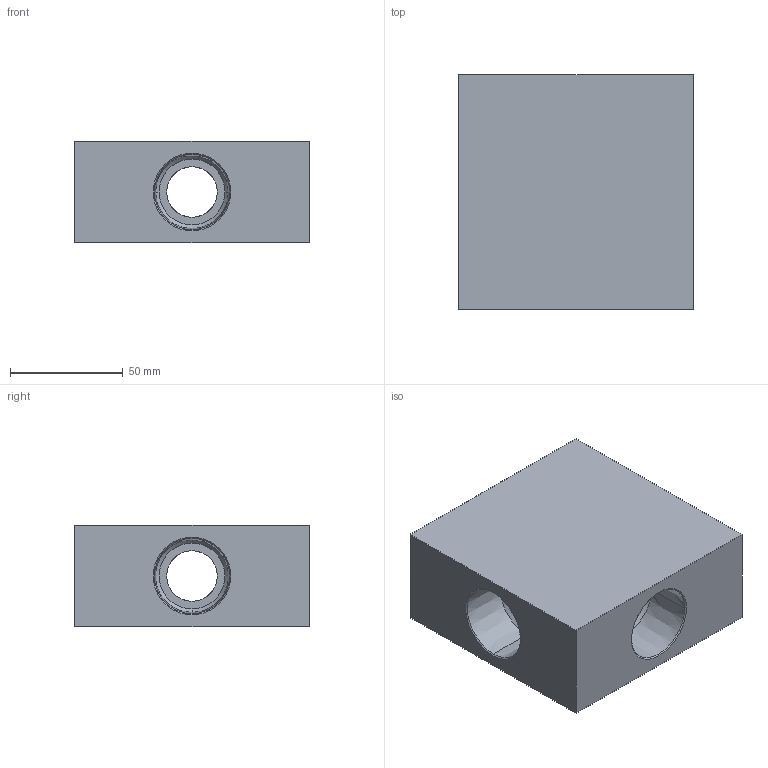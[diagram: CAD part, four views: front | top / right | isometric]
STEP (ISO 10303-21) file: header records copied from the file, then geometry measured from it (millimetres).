
FILE_DESCRIPTION (( 'STEP AP203' ), '1' );
FILE_NAME ('FTPCS16.STEP', '2026-06-26T00:54:25', ( 'USER' ), ( '' ), 'SwSTEP 2.0', 'SolidWorks 2023', '' );
FILE_SCHEMA (( 'CONFIG_CONTROL_DESIGN' ));
Length unit declared in the file: millimetre
Products named in the file (1): FTPCS16
Bounding box: 104 x 104 x 45 mm (x, y, z)
Volume: 369043 mm3; surface area: 53863.7 mm2
Topology: 1 solids, 1 shells, 50 faces, 112 edges, 66 vertices
Faces by surface type: cone 24, cylinder 16, plane 10
Entity records: 1469 total; most frequent: DIRECTION 258, CARTESIAN_POINT 253, ORIENTED_EDGE 224, EDGE_CURVE 112, AXIS2_PLACEMENT_3D 103, VERTEX_POINT 66, EDGE_LOOP 58, VECTOR 52
